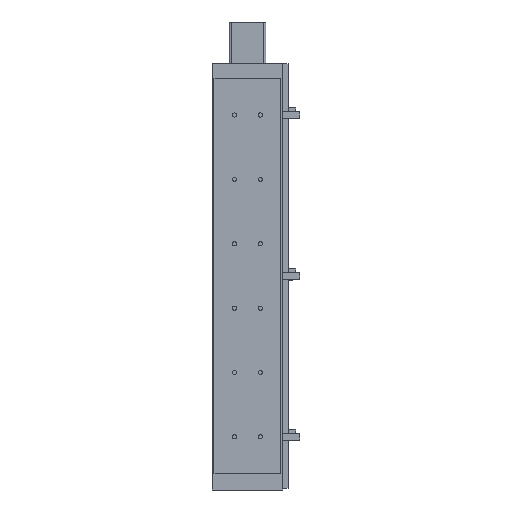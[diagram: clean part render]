
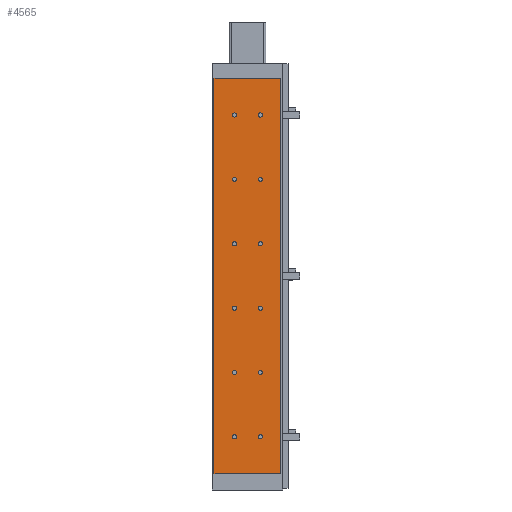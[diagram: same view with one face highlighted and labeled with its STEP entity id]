
A CAD part, front view. The second image highlights one B-rep face of the part: STEP entity #4565.
In plain terms, the highlighted planar face has unit normal (0, -1, 0).
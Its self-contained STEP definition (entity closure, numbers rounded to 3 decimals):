
#184=CARTESIAN_POINT('',(16.75,0.,582.5));
#185=VERTEX_POINT('',#184);
#186=CARTESIAN_POINT('',(20.,0.0,582.5));
#187=DIRECTION('',(0.0,1.0,0.0));
#188=DIRECTION('',(1.0,0.0,0.0));
#189=AXIS2_PLACEMENT_3D('',#186,#187,#188);
#190=CIRCLE('',#189,3.25);
#191=EDGE_CURVE('',#185,#185,#190,.T.);
#230=CARTESIAN_POINT('',(-23.25,0.,582.5));
#231=VERTEX_POINT('',#230);
#232=CARTESIAN_POINT('',(-20.,0.0,582.5));
#233=DIRECTION('',(0.0,1.0,0.0));
#234=DIRECTION('',(1.0,0.0,0.0));
#235=AXIS2_PLACEMENT_3D('',#232,#233,#234);
#236=CIRCLE('',#235,3.25);
#237=EDGE_CURVE('',#231,#231,#236,.T.);
#338=CARTESIAN_POINT('',(16.75,0.,482.5));
#339=VERTEX_POINT('',#338);
#340=CARTESIAN_POINT('',(20.,0.0,482.5));
#341=DIRECTION('',(0.0,1.0,0.0));
#342=DIRECTION('',(1.0,0.0,0.0));
#343=AXIS2_PLACEMENT_3D('',#340,#341,#342);
#344=CIRCLE('',#343,3.25);
#345=EDGE_CURVE('',#339,#339,#344,.T.);
#384=CARTESIAN_POINT('',(-23.25,0.,482.5));
#385=VERTEX_POINT('',#384);
#386=CARTESIAN_POINT('',(-20.,0.0,482.5));
#387=DIRECTION('',(0.0,1.0,0.0));
#388=DIRECTION('',(1.0,0.0,0.0));
#389=AXIS2_PLACEMENT_3D('',#386,#387,#388);
#390=CIRCLE('',#389,3.25);
#391=EDGE_CURVE('',#385,#385,#390,.T.);
#492=CARTESIAN_POINT('',(16.75,0.,182.5));
#493=VERTEX_POINT('',#492);
#494=CARTESIAN_POINT('',(20.,0.0,182.5));
#495=DIRECTION('',(0.0,1.0,0.0));
#496=DIRECTION('',(1.0,0.0,0.0));
#497=AXIS2_PLACEMENT_3D('',#494,#495,#496);
#498=CIRCLE('',#497,3.25);
#499=EDGE_CURVE('',#493,#493,#498,.T.);
#538=CARTESIAN_POINT('',(-23.25,0.,182.5));
#539=VERTEX_POINT('',#538);
#540=CARTESIAN_POINT('',(-20.,0.0,182.5));
#541=DIRECTION('',(0.0,1.0,0.0));
#542=DIRECTION('',(1.0,0.0,0.0));
#543=AXIS2_PLACEMENT_3D('',#540,#541,#542);
#544=CIRCLE('',#543,3.25);
#545=EDGE_CURVE('',#539,#539,#544,.T.);
#646=CARTESIAN_POINT('',(16.75,0.,82.5));
#647=VERTEX_POINT('',#646);
#648=CARTESIAN_POINT('',(20.,0.0,82.5));
#649=DIRECTION('',(0.0,1.0,0.0));
#650=DIRECTION('',(1.0,0.0,0.0));
#651=AXIS2_PLACEMENT_3D('',#648,#649,#650);
#652=CIRCLE('',#651,3.25);
#653=EDGE_CURVE('',#647,#647,#652,.T.);
#692=CARTESIAN_POINT('',(-23.25,0.,82.5));
#693=VERTEX_POINT('',#692);
#694=CARTESIAN_POINT('',(-20.,0.0,82.5));
#695=DIRECTION('',(0.0,1.0,0.0));
#696=DIRECTION('',(1.0,0.0,0.0));
#697=AXIS2_PLACEMENT_3D('',#694,#695,#696);
#698=CIRCLE('',#697,3.25);
#699=EDGE_CURVE('',#693,#693,#698,.T.);
#800=CARTESIAN_POINT('',(16.75,0.,382.5));
#801=VERTEX_POINT('',#800);
#802=CARTESIAN_POINT('',(20.,0.0,382.5));
#803=DIRECTION('',(0.0,1.0,0.0));
#804=DIRECTION('',(1.0,0.0,0.0));
#805=AXIS2_PLACEMENT_3D('',#802,#803,#804);
#806=CIRCLE('',#805,3.25);
#807=EDGE_CURVE('',#801,#801,#806,.T.);
#877=CARTESIAN_POINT('',(-23.25,0.,382.5));
#878=VERTEX_POINT('',#877);
#879=CARTESIAN_POINT('',(-20.,0.0,382.5));
#880=DIRECTION('',(0.0,1.0,0.0));
#881=DIRECTION('',(1.0,0.0,0.0));
#882=AXIS2_PLACEMENT_3D('',#879,#880,#881);
#883=CIRCLE('',#882,3.25);
#884=EDGE_CURVE('',#878,#878,#883,.T.);
#954=CARTESIAN_POINT('',(16.75,0.,282.5));
#955=VERTEX_POINT('',#954);
#956=CARTESIAN_POINT('',(20.,0.0,282.5));
#957=DIRECTION('',(0.0,1.0,0.0));
#958=DIRECTION('',(1.0,0.0,0.0));
#959=AXIS2_PLACEMENT_3D('',#956,#957,#958);
#960=CIRCLE('',#959,3.25);
#961=EDGE_CURVE('',#955,#955,#960,.T.);
#1031=CARTESIAN_POINT('',(-23.25,0.,282.5));
#1032=VERTEX_POINT('',#1031);
#1033=CARTESIAN_POINT('',(-20.,0.0,282.5));
#1034=DIRECTION('',(0.0,1.0,0.0));
#1035=DIRECTION('',(1.0,0.0,0.0));
#1036=AXIS2_PLACEMENT_3D('',#1033,#1034,#1035);
#1037=CIRCLE('',#1036,3.25);
#1038=EDGE_CURVE('',#1032,#1032,#1037,.T.);
#4450=CARTESIAN_POINT('',(52.,0.,25.));
#4451=VERTEX_POINT('',#4450);
#4458=CARTESIAN_POINT('',(-52.0,0.,25.));
#4459=VERTEX_POINT('',#4458);
#4460=CARTESIAN_POINT('',(-52.0,0.,25.));
#4461=DIRECTION('',(1.0,0.0,0.0));
#4462=VECTOR('',#4461,104.0);
#4463=LINE('',#4460,#4462);
#4464=EDGE_CURVE('',#4459,#4451,#4463,.T.);
#4481=CARTESIAN_POINT('',(-52.,0.,640.0));
#4482=VERTEX_POINT('',#4481);
#4483=CARTESIAN_POINT('',(-52.0,0.,25.));
#4484=DIRECTION('',(0.0,0.0,1.0));
#4485=VECTOR('',#4484,615.0);
#4486=LINE('',#4483,#4485);
#4487=EDGE_CURVE('',#4459,#4482,#4486,.T.);
#4506=CARTESIAN_POINT('',(52.0,0.,0.0));
#4507=DIRECTION('',(0.0,-1.0,0.0));
#4508=DIRECTION('',(0.0,0.0,-1.0));
#4509=AXIS2_PLACEMENT_3D('',#4506,#4507,#4508);
#4510=PLANE('',#4509);
#4511=ORIENTED_EDGE('',*,*,#4464,.T.);
#4512=CARTESIAN_POINT('',(52.,0.,640.0));
#4513=VERTEX_POINT('',#4512);
#4514=CARTESIAN_POINT('',(52.,0.,25.));
#4515=DIRECTION('',(0.0,0.0,1.0));
#4516=VECTOR('',#4515,615.0);
#4517=LINE('',#4514,#4516);
#4518=EDGE_CURVE('',#4451,#4513,#4517,.T.);
#4519=ORIENTED_EDGE('',*,*,#4518,.T.);
#4520=CARTESIAN_POINT('',(52.,0.,640.0));
#4521=DIRECTION('',(-1.0,0.0,0.0));
#4522=VECTOR('',#4521,104.);
#4523=LINE('',#4520,#4522);
#4524=EDGE_CURVE('',#4513,#4482,#4523,.T.);
#4525=ORIENTED_EDGE('',*,*,#4524,.T.);
#4526=ORIENTED_EDGE('',*,*,#4487,.F.);
#4527=EDGE_LOOP('',(#4511,#4519,#4525,#4526));
#4528=FACE_OUTER_BOUND('',#4527,.T.);
#4529=ORIENTED_EDGE('',*,*,#191,.T.);
#4530=EDGE_LOOP('',(#4529));
#4531=FACE_BOUND('',#4530,.T.);
#4532=ORIENTED_EDGE('',*,*,#237,.T.);
#4533=EDGE_LOOP('',(#4532));
#4534=FACE_BOUND('',#4533,.T.);
#4535=ORIENTED_EDGE('',*,*,#345,.T.);
#4536=EDGE_LOOP('',(#4535));
#4537=FACE_BOUND('',#4536,.T.);
#4538=ORIENTED_EDGE('',*,*,#391,.T.);
#4539=EDGE_LOOP('',(#4538));
#4540=FACE_BOUND('',#4539,.T.);
#4541=ORIENTED_EDGE('',*,*,#499,.T.);
#4542=EDGE_LOOP('',(#4541));
#4543=FACE_BOUND('',#4542,.T.);
#4544=ORIENTED_EDGE('',*,*,#545,.T.);
#4545=EDGE_LOOP('',(#4544));
#4546=FACE_BOUND('',#4545,.T.);
#4547=ORIENTED_EDGE('',*,*,#653,.T.);
#4548=EDGE_LOOP('',(#4547));
#4549=FACE_BOUND('',#4548,.T.);
#4550=ORIENTED_EDGE('',*,*,#699,.T.);
#4551=EDGE_LOOP('',(#4550));
#4552=FACE_BOUND('',#4551,.T.);
#4553=ORIENTED_EDGE('',*,*,#807,.T.);
#4554=EDGE_LOOP('',(#4553));
#4555=FACE_BOUND('',#4554,.T.);
#4556=ORIENTED_EDGE('',*,*,#884,.T.);
#4557=EDGE_LOOP('',(#4556));
#4558=FACE_BOUND('',#4557,.T.);
#4559=ORIENTED_EDGE('',*,*,#961,.T.);
#4560=EDGE_LOOP('',(#4559));
#4561=FACE_BOUND('',#4560,.T.);
#4562=ORIENTED_EDGE('',*,*,#1038,.T.);
#4563=EDGE_LOOP('',(#4562));
#4564=FACE_BOUND('',#4563,.T.);
#4565=ADVANCED_FACE('',(#4528,#4531,#4534,#4537,#4540,#4543,#4546,#4549,#4552,#4555,#4558,#4561,#4564),#4510,.T.);
